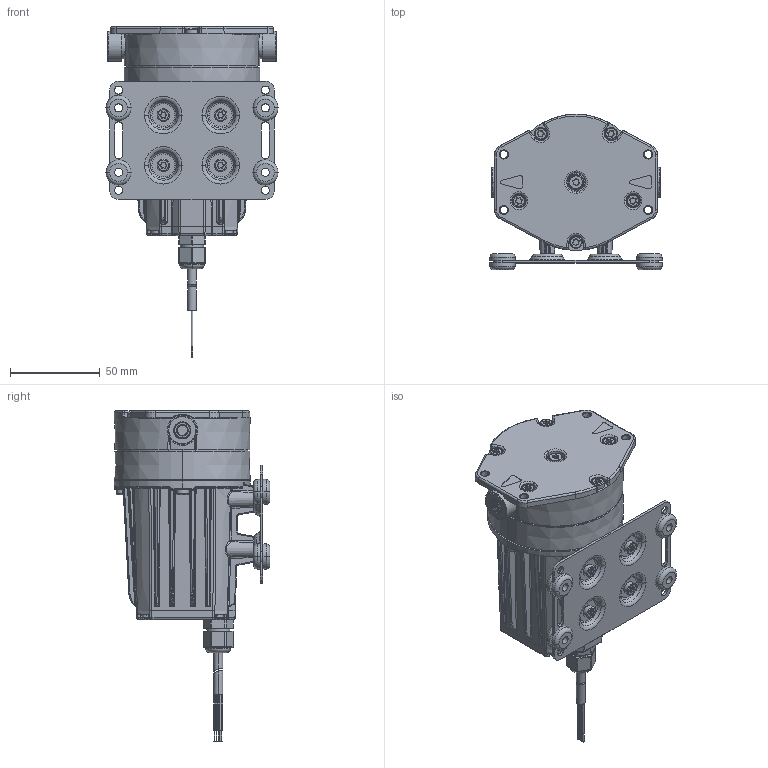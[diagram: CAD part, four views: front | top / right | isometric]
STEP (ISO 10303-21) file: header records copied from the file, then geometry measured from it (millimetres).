
FILE_DESCRIPTION((''),'2;1');
FILE_NAME('CAD1165327','2026-02-18T15:03:38',('leon.rueegg'),('KNF Flodos AG, 6210 Sursee, Switzerland'),'CREO PARAMETRIC BY PTC INC, 2024401','CREO PARAMETRIC BY PTC INC, 2024401','');
FILE_SCHEMA(('AP242_MANAGED_MODEL_BASED_3D_ENGINEERING_MIM_LF { 1 0 10303 442 1 1 4 }'));
Length unit declared in the file: millimetre
Products named in the file (1): CAD1165327
Bounding box: 96 x 86.75 x 184.6 mm (x, y, z)
Volume: 423750.6 mm3; surface area: 68612.5 mm2
Topology: 2 solids, 2 shells, 2585 faces, 6469 edges, 3916 vertices
Faces by surface type: cylinder 902, bspline 726, plane 487, torus 251, cone 143, sphere 68, extrusion 8
Entity records: 173789 total; most frequent: CARTESIAN_POINT 99181, ORIENTED_EDGE 12834, DIRECTION 10901, EDGE_CURVE 6417, AXIS2_PLACEMENT_3D 4455, VERTEX_POINT 3916, EDGE_LOOP 2699, FACE_OUTER_BOUND 2585
